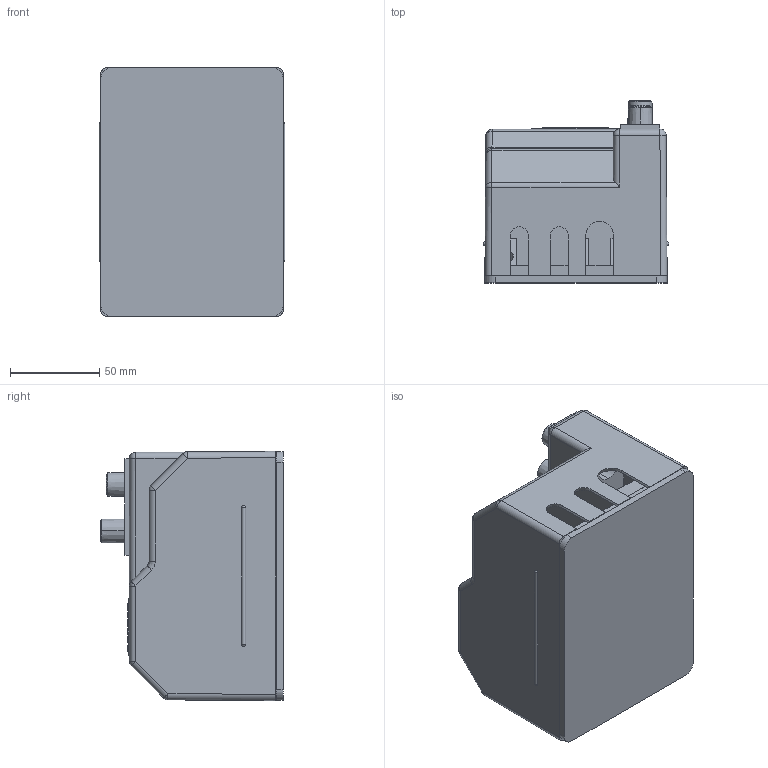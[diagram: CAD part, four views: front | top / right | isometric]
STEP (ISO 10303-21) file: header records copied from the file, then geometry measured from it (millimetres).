
FILE_DESCRIPTION (( 'STEP AP203' ), '1' );
FILE_NAME ('ap50b-3ïîë.STEP', '2013-10-01T09:30:05', ( 'www.PHILka.RU' ), ( 'WareZ Provider ' ), 'SwSTEP 2.0', 'SolidWorks 2007', '' );
FILE_SCHEMA (( 'CONFIG_CONTROL_DESIGN' ));
Length unit declared in the file: millimetre
Products named in the file (8): kn_sb; knopka02; knopka01; ap50b-3ïîë; knopka03; osnov; vintm4; krishka_ark
Assembly tree (8 placements, depth 3):
  ap50b-3ïîë
    osnov
    vintm4  x2
    knopka01
    krishka_ark
    kn_sb
      knopka02
      knopka03
Bounding box: 103.95 x 102.1 x 139.5 mm (x, y, z)
Volume: 849612.8 mm3; surface area: 183681.7 mm2
Topology: 7 solids, 7 shells, 1235 faces, 3283 edges, 2167 vertices
Faces by surface type: plane 709, bspline 392, cylinder 94, sphere 21, cone 17, torus 2
Entity records: 58244 total; most frequent: CARTESIAN_POINT 29780, ORIENTED_EDGE 6422, DIRECTION 4309, EDGE_CURVE 3211, VECTOR 2185, LINE 2185, VERTEX_POINT 2127, EDGE_LOOP 1332
